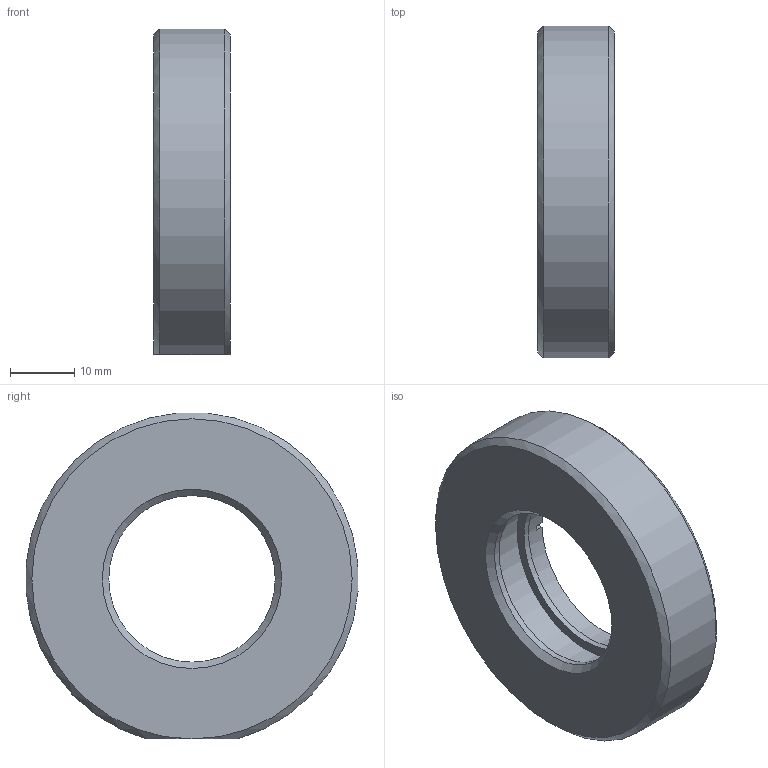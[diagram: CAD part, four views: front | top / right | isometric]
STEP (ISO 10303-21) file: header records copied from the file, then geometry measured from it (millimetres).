
FILE_DESCRIPTION((''),'2;1');
FILE_NAME('S:\1規格品図面ﾃﾞｰﾀ\OpticalHard\02_海外製品\2_Holders\LHF\LHF-30EE\LHF-30EE.stp','2007-09-13T09:33:33',('okegawa'),(''),'Autodesk Inventor 11','Autodesk Inventor 11','');
FILE_SCHEMA(('AUTOMOTIVE_DESIGN { 1 0 10303 214 1 1 1 1 }'));
Length unit declared in the file: millimetre
Products named in the file (1): LHF-30EE-C1-S01
Bounding box: 12 x 51.84 x 50.9 mm (x, y, z)
Volume: 17516.8 mm3; surface area: 6340.5 mm2
Topology: 1 solids, 1 shells, 43 faces, 102 edges, 65 vertices
Faces by surface type: plane 18, bspline 17, cone 4, cylinder 4
Full cylindrical faces by diameter (mm): 27 x2
Entity records: 1317 total; most frequent: CARTESIAN_POINT 415, DIRECTION 178, ORIENTED_EDGE 170, EDGE_CURVE 85, AXIS2_PLACEMENT_3D 70, EDGE_LOOP 60, VERTEX_POINT 59, CIRCLE 43
